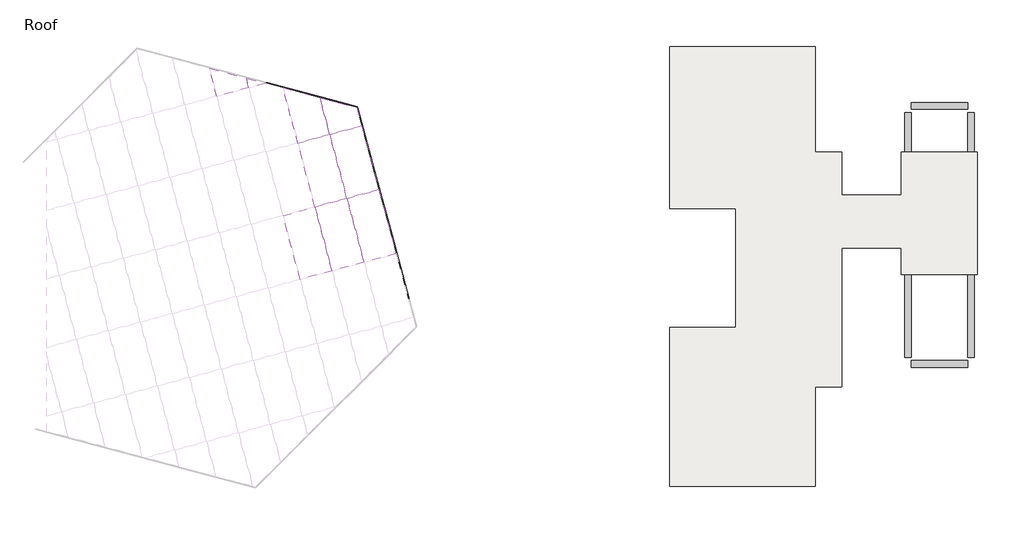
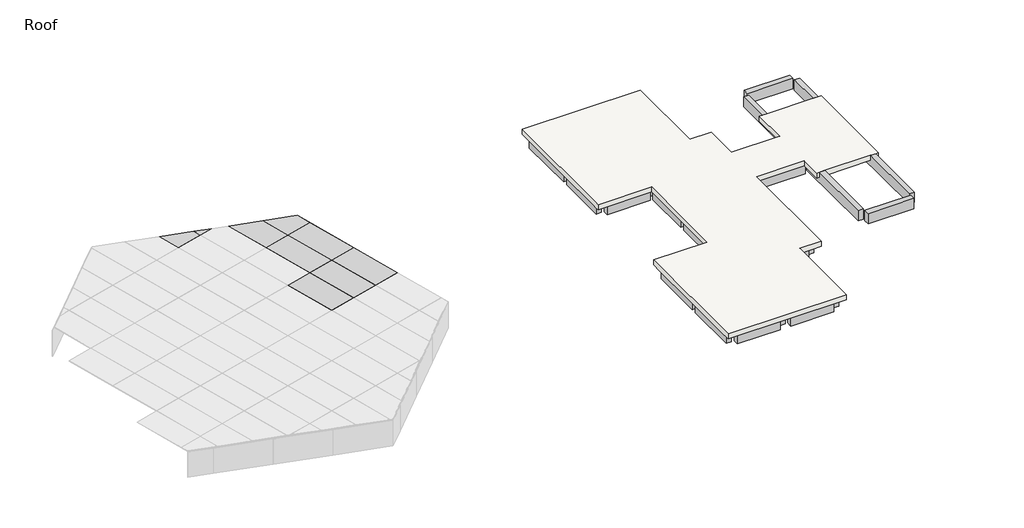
# One storey, part 2 of 2: 45 beams, 26 plates, 1 slab.
"""IFC4 building model written with IfcOpenShell, lengths in millimetres."""

from ifc_helpers import new_model, si_unit, frame, origin, place, context, project, spatial, polyline, outline, extrude, faceted_brep, transform, mapped, element, save
from components import system_panel_glazed_1e57f9bb, system_panel_glazed_41de1ca9, system_panel_glazed_1eba4097, system_panel_glazed_0a37f690, system_panel_glazed_97b34f28, system_panel_glazed_42882d86

model = new_model("IFC4")

# Units and contexts
model_context = context("Model", 3, world=origin())
ifc_project = project(units=[si_unit("LENGTHUNIT", "METRE", prefix="MILLI")], contexts=[model_context])

# Site, building, storey
site = spatial("IfcSite", under=ifc_project)
building = spatial("IfcBuilding", under=site)
storey = spatial("IfcBuildingStorey", under=building, Name="Roof", Elevation=7620.0)

# Beams
placement = place(None, origin())
element("IfcBeam", 1, ObjectType="Concrete-Rectangular Beam : 12 x 24", at=placement, inside=storey, context=model_context, shape_type="SweptSolid", body=[
    extrude(outline(polyline([(-12919.1663981, 10274.1487848), (-12919.1663981, 9969.3487848), (-15357.5663981, 9969.3487848), (-15357.5663981, 10274.1487848), (-12919.1663981, 10274.1487848)])), frame((0.0, 0.0, 6705.6), z_axis=(0.0, 0.0, 1.0), x_axis=(1.0, 0.0, 0.0)), (0.0, 0.0, 1.0), 609.6),
])
element("IfcBeam", 2, ObjectType="Concrete-Rectangular Beam : 12 x 24", at=placement, inside=storey, context=model_context, shape_type="SweptSolid", body=[
    extrude(outline(polyline([(-9871.1663981, 10274.1487848), (-9871.1663981, 9969.3487848), (-12309.5663981, 9969.3487848), (-12309.5663981, 10274.1487848), (-9871.1663981, 10274.1487848)])), frame((0.0, 0.0, 6705.6), z_axis=(0.0, 0.0, 1.0), x_axis=(1.0, 0.0, 0.0)), (0.0, 0.0, 1.0), 609.6),
])
element("IfcBeam", 3, ObjectType="Concrete-Rectangular Beam : 12 x 24", at=placement, inside=storey, context=model_context, shape_type="SweptSolid", body=[
    extrude(outline(polyline([(-15509.9663981, 6616.5487848), (-15814.7663981, 6616.5487848), (-15814.7663981, 9969.3487848), (-15509.9663981, 9969.3487848), (-15509.9663981, 6616.5487848)])), frame((0.0, 0.0, 6705.6), z_axis=(0.0, 0.0, 1.0), x_axis=(1.0, 0.0, 0.0)), (0.0, 0.0, 1.0), 609.6),
])
element("IfcBeam", 4, ObjectType="Concrete-Rectangular Beam : 12 x 24", at=placement, inside=storey, context=model_context, shape_type="SweptSolid", body=[
    extrude(outline(polyline([(-15509.9663981, 3416.1487848), (-15814.7663981, 3416.1487848), (-15814.7663981, 6311.7487848), (-15509.9663981, 6311.7487848), (-15509.9663981, 3416.1487848)])), frame((0.0, 0.0, 6705.6), z_axis=(0.0, 0.0, 1.0), x_axis=(1.0, 0.0, 0.0)), (0.0, 0.0, 1.0), 609.6),
])
element("IfcBeam", 5, ObjectType="Concrete-Rectangular Beam : 12 x 24", at=placement, inside=storey, context=model_context, shape_type="SweptSolid", body=[
    extrude(outline(polyline([(-9413.9663981, 6616.5487848), (-9718.7663981, 6616.5487848), (-9718.7663981, 9969.3487848), (-9413.9663981, 9969.3487848), (-9413.9663981, 6616.5487848)])), frame((0.0, 0.0, 6705.6), z_axis=(0.0, 0.0, 1.0), x_axis=(1.0, 0.0, 0.0)), (0.0, 0.0, 1.0), 609.6),
])
element("IfcBeam", 6, ObjectType="Concrete-Rectangular Beam : 12 x 24", at=placement, inside=storey, context=model_context, shape_type="SweptSolid", body=[
    extrude(outline(polyline([(-12461.9663981, 6616.5487848), (-12766.7663981, 6616.5487848), (-12766.7663981, 9969.3487848), (-12461.9663981, 9969.3487848), (-12461.9663981, 6616.5487848)])), frame((0.0, 0.0, 6705.6), z_axis=(0.0, 0.0, 1.0), x_axis=(1.0, 0.0, 0.0)), (0.0, 0.0, 1.0), 609.6),
])
element("IfcBeam", 7, ObjectType="Concrete-Rectangular Beam : 12 x 24", at=placement, inside=storey, context=model_context, shape_type="SweptSolid", body=[
    extrude(outline(polyline([(-12919.1663981, 6616.5487848), (-12919.1663981, 6311.7487848), (-15357.5663981, 6311.7487848), (-15357.5663981, 6616.5487848), (-12919.1663981, 6616.5487848)])), frame((0.0, 0.0, 6705.6), z_axis=(0.0, 0.0, 1.0), x_axis=(1.0, 0.0, 0.0)), (0.0, 0.0, 1.0), 609.6),
])
element("IfcBeam", 8, ObjectType="Concrete-Rectangular Beam : 12 x 24", at=placement, inside=storey, context=model_context, shape_type="SweptSolid", body=[
    extrude(outline(polyline([(-9871.1663981, 6616.5487848), (-9871.1663981, 6311.7487848), (-12309.5663981, 6311.7487848), (-12309.5663981, 6616.5487848), (-9871.1663981, 6616.5487848)])), frame((0.0, 0.0, 6705.6), z_axis=(0.0, 0.0, 1.0), x_axis=(1.0, 0.0, 0.0)), (0.0, 0.0, 1.0), 609.6),
])
element("IfcBeam", 9, ObjectType="Concrete-Rectangular Beam : 12 x 24", at=placement, inside=storey, context=model_context, shape_type="SweptSolid", body=[
    extrude(outline(polyline([(-12919.1663981, 3416.1487848), (-12919.1663981, 3111.3487848), (-15357.5663981, 3111.3487848), (-15357.5663981, 3416.1487848), (-12919.1663981, 3416.1487848)])), frame((0.0, 0.0, 6705.6), z_axis=(0.0, 0.0, 1.0), x_axis=(1.0, 0.0, 0.0)), (0.0, 0.0, 1.0), 609.6),
])
element("IfcBeam", 10, ObjectType="Concrete-Rectangular Beam : 12 x 24", at=placement, inside=storey, context=model_context, shape_type="SweptSolid", body=[
    extrude(outline(polyline([(-8651.9663981, 3416.1487848), (-8651.9663981, 3111.3487848), (-12309.5663981, 3111.3487848), (-12309.5663981, 3416.1487848), (-8651.9663981, 3416.1487848)])), frame((0.0, 0.0, 6705.6), z_axis=(0.0, 0.0, 1.0), x_axis=(1.0, 0.0, 0.0)), (0.0, 0.0, 1.0), 609.6),
])
element("IfcBeam", 11, ObjectType="Concrete-Rectangular Beam : 12 x 24", at=placement, inside=storey, context=model_context, shape_type="Brep", body=[
    faceted_brep([(-8651.9663981, 5092.5487848, 7315.2), (-8651.9663981, 5397.3487848, 7315.2), (-9413.9663981, 5397.3487848, 7315.2), (-9718.7663981, 5397.3487848, 7315.2), (-9718.7663981, 5092.5487848, 7315.2), (-8651.9663981, 5397.3487848, 6705.6), (-9413.9663981, 5397.3487848, 6705.6), (-9718.7663981, 5397.3487848, 6705.6), (-8651.9663981, 5092.5487848, 6705.6), (-9718.7663981, 5092.5487848, 6705.6)], [[[0, 1, 2, 3, 4]], [[1, 5, 6, 7, 3, 2]], [[5, 8, 9, 7, 6]], [[8, 0, 4, 9]], [[0, 8, 5, 1]], [[4, 3, 7, 9]]]),
])
element("IfcBeam", 12, ObjectType="Concrete-Rectangular Beam : 12 x 24", at=placement, inside=storey, context=model_context, shape_type="SweptSolid", body=[
    extrude(outline(polyline([(-9718.7663981, 6311.7487848), (-9413.9663981, 6311.7487848), (-9413.9663981, 5397.3487848), (-9718.7663981, 5397.3487848), (-9718.7663981, 6311.7487848)])), frame((0.0, 0.0, 6705.6), z_axis=(0.0, 0.0, 1.0), x_axis=(1.0, 0.0, 0.0)), (0.0, 0.0, 1.0), 609.6),
])
element("IfcBeam", 13, ObjectType="Concrete-Rectangular Beam : 12 x 24", at=placement, inside=storey, context=model_context, shape_type="SweptSolid", body=[
    extrude(outline(polyline([(-8194.7663981, 3416.1487848), (-8499.5663981, 3416.1487848), (-8499.5663981, 5092.5487848), (-8194.7663981, 5092.5487848), (-8194.7663981, 3416.1487848)])), frame((0.0, 0.0, 6705.6), z_axis=(0.0, 0.0, 1.0), x_axis=(1.0, 0.0, 0.0)), (0.0, 0.0, 1.0), 609.6),
])
element("IfcBeam", 14, ObjectType="Concrete-Rectangular Beam : 12 x 24", at=placement, inside=storey, context=model_context, shape_type="SweptSolid", body=[
    extrude(outline(polyline([(-12461.9663981, 3416.1487848), (-12766.7663981, 3416.1487848), (-12766.7663981, 6311.7487848), (-12461.9663981, 6311.7487848), (-12461.9663981, 3416.1487848)])), frame((0.0, 0.0, 6705.6), z_axis=(0.0, 0.0, 1.0), x_axis=(1.0, 0.0, 0.0)), (0.0, 0.0, 1.0), 609.6),
])
element("IfcBeam", 15, ObjectType="Concrete-Rectangular Beam : 12 x 24", at=placement, inside=storey, context=model_context, shape_type="SweptSolid", body=[
    extrude(outline(polyline([(-8042.3663981, 3111.3487848), (-8042.3663981, 3416.1487848), (-5146.7663981, 3416.1487848), (-5146.7663981, 3111.3487848), (-8042.3663981, 3111.3487848)])), frame((0.0, 0.0, 6705.6), z_axis=(0.0, 0.0, 1.0), x_axis=(1.0, 0.0, 0.0)), (0.0, 0.0, 1.0), 609.6),
])
element("IfcBeam", 16, ObjectType="Concrete-Rectangular Beam : 12 x 24", at=placement, inside=storey, context=model_context, shape_type="Brep", body=[
    faceted_brep([(-8499.5663981, 368.1487848, 7315.2), (-8194.7663981, 368.1487848, 7315.2), (-8194.7663981, 1282.5487848, 7315.2), (-8194.7663981, 1587.3487848, 7315.2), (-8194.7663981, 3111.3487848, 7315.2), (-8499.5663981, 3111.3487848, 7315.2), (-8499.5663981, 368.1487848, 6705.6), (-8499.5663981, 3111.3487848, 6705.6), (-8194.7663981, 368.1487848, 6705.6), (-8194.7663981, 3111.3487848, 6705.6), (-8194.7663981, 1587.3487848, 6705.6), (-8194.7663981, 1282.5487848, 6705.6)], [[[0, 1, 2, 3, 4, 5]], [[6, 0, 5, 7]], [[8, 6, 7, 9, 10, 11]], [[1, 8, 11, 10, 9, 4, 3, 2]], [[4, 9, 7, 5]], [[1, 0, 6, 8]]]),
])
element("IfcBeam", 17, ObjectType="Concrete-Rectangular Beam : 12 x 24", at=placement, inside=storey, context=model_context, shape_type="SweptSolid", body=[
    extrude(outline(polyline([(-8194.7663981, -2679.8512152), (-8499.5663981, -2679.8512152), (-8499.5663981, 63.3487848), (-8194.7663981, 63.3487848), (-8194.7663981, -2679.8512152)])), frame((0.0, 0.0, 6705.6), z_axis=(0.0, 0.0, 1.0), x_axis=(1.0, 0.0, 0.0)), (0.0, 0.0, 1.0), 609.6),
])
element("IfcBeam", 18, ObjectType="Concrete-Rectangular Beam : 12 x 24", at=placement, inside=storey, context=model_context, shape_type="SweptSolid", body=[
    extrude(outline(polyline([(-8194.7663981, -4813.4512152), (-8499.5663981, -4813.4512152), (-8499.5663981, -2984.6512152), (-8194.7663981, -2984.6512152), (-8194.7663981, -4813.4512152)])), frame((0.0, 0.0, 6705.6), z_axis=(0.0, 0.0, 1.0), x_axis=(1.0, 0.0, 0.0)), (0.0, 0.0, 1.0), 609.6),
])
element("IfcBeam", 19, ObjectType="Concrete-Rectangular Beam : 12 x 24", at=placement, inside=storey, context=model_context, shape_type="SweptSolid", body=[
    extrude(outline(polyline([(-8194.7663981, 1282.5487848), (-8194.7663981, 1587.3487848), (-5146.7663981, 1587.3487848), (-5146.7663981, 1282.5487848), (-8194.7663981, 1282.5487848)])), frame((0.0, 0.0, 6705.6), z_axis=(0.0, 0.0, 1.0), x_axis=(1.0, 0.0, 0.0)), (0.0, 0.0, 1.0), 609.6),
])
element("IfcBeam", 20, ObjectType="Concrete-Rectangular Beam : 12 x 24", at=placement, inside=storey, context=model_context, shape_type="SweptSolid", body=[
    extrude(outline(polyline([(-12461.9663981, 368.1487848), (-12766.7663981, 368.1487848), (-12766.7663981, 3111.3487848), (-12461.9663981, 3111.3487848), (-12461.9663981, 368.1487848)])), frame((0.0, 0.0, 6705.6), z_axis=(0.0, 0.0, 1.0), x_axis=(1.0, 0.0, 0.0)), (0.0, 0.0, 1.0), 609.6),
])
element("IfcBeam", 21, ObjectType="Concrete-Rectangular Beam : 12 x 24", at=placement, inside=storey, context=model_context, shape_type="SweptSolid", body=[
    extrude(outline(polyline([(-12461.9663981, -2679.8512152), (-12766.7663981, -2679.8512152), (-12766.7663981, 63.3487848), (-12461.9663981, 63.3487848), (-12461.9663981, -2679.8512152)])), frame((0.0, 0.0, 6705.6), z_axis=(0.0, 0.0, 1.0), x_axis=(1.0, 0.0, 0.0)), (0.0, 0.0, 1.0), 609.6),
])
element("IfcBeam", 22, ObjectType="Concrete-Rectangular Beam : 12 x 24", at=placement, inside=storey, context=model_context, shape_type="SweptSolid", body=[
    extrude(outline(polyline([(-12919.1663981, -2679.8512152), (-12919.1663981, -2984.6512152), (-15357.5663981, -2984.6512152), (-15357.5663981, -2679.8512152), (-12919.1663981, -2679.8512152)])), frame((0.0, 0.0, 6705.6), z_axis=(0.0, 0.0, 1.0), x_axis=(1.0, 0.0, 0.0)), (0.0, 0.0, 1.0), 609.6),
])
element("IfcBeam", 23, ObjectType="Concrete-Rectangular Beam : 12 x 24", at=placement, inside=storey, context=model_context, shape_type="SweptSolid", body=[
    extrude(outline(polyline([(-8651.9663981, -2679.8512152), (-8651.9663981, -2984.6512152), (-12309.5663981, -2984.6512152), (-12309.5663981, -2679.8512152), (-8651.9663981, -2679.8512152)])), frame((0.0, 0.0, 6705.6), z_axis=(0.0, 0.0, 1.0), x_axis=(1.0, 0.0, 0.0)), (0.0, 0.0, 1.0), 609.6),
])
element("IfcBeam", 24, ObjectType="Concrete-Rectangular Beam : 12 x 24", at=placement, inside=storey, context=model_context, shape_type="SweptSolid", body=[
    extrude(outline(polyline([(-8651.9663981, 368.1487848), (-8651.9663981, 63.3487848), (-12309.5663981, 63.3487848), (-12309.5663981, 368.1487848), (-8651.9663981, 368.1487848)])), frame((0.0, 0.0, 6705.6), z_axis=(0.0, 0.0, 1.0), x_axis=(1.0, 0.0, 0.0)), (0.0, 0.0, 1.0), 609.6),
])
element("IfcBeam", 25, ObjectType="Concrete-Rectangular Beam : 12 x 24", at=placement, inside=storey, context=model_context, shape_type="SweptSolid", body=[
    extrude(outline(polyline([(-15509.9663981, -6032.6512152), (-15814.7663981, -6032.6512152), (-15814.7663981, -2984.6512152), (-15509.9663981, -2984.6512152), (-15509.9663981, -6032.6512152)])), frame((0.0, 0.0, 6705.6), z_axis=(0.0, 0.0, 1.0), x_axis=(1.0, 0.0, 0.0)), (0.0, 0.0, 1.0), 609.6),
])
element("IfcBeam", 26, ObjectType="Concrete-Rectangular Beam : 12 x 24", at=placement, inside=storey, context=model_context, shape_type="SweptSolid", body=[
    extrude(outline(polyline([(-12919.1663981, -6032.6512152), (-12919.1663981, -6337.4512152), (-15357.5663981, -6337.4512152), (-15357.5663981, -6032.6512152), (-12919.1663981, -6032.6512152)])), frame((0.0, 0.0, 6705.6), z_axis=(0.0, 0.0, 1.0), x_axis=(1.0, 0.0, 0.0)), (0.0, 0.0, 1.0), 609.6),
])
element("IfcBeam", 27, ObjectType="Concrete-Rectangular Beam : 12 x 24", at=placement, inside=storey, context=model_context, shape_type="SweptSolid", body=[
    extrude(outline(polyline([(-9871.1663981, -6032.6512152), (-9871.1663981, -6337.4512152), (-12309.5663981, -6337.4512152), (-12309.5663981, -6032.6512152), (-9871.1663981, -6032.6512152)])), frame((0.0, 0.0, 6705.6), z_axis=(0.0, 0.0, 1.0), x_axis=(1.0, 0.0, 0.0)), (0.0, 0.0, 1.0), 609.6),
])
element("IfcBeam", 28, ObjectType="Concrete-Rectangular Beam : 12 x 24", at=placement, inside=storey, context=model_context, shape_type="SweptSolid", body=[
    extrude(outline(polyline([(-12461.9663981, -6032.6512152), (-12766.7663981, -6032.6512152), (-12766.7663981, -2984.6512152), (-12461.9663981, -2984.6512152), (-12461.9663981, -6032.6512152)])), frame((0.0, 0.0, 6705.6), z_axis=(0.0, 0.0, 1.0), x_axis=(1.0, 0.0, 0.0)), (0.0, 0.0, 1.0), 609.6),
])
element("IfcBeam", 29, ObjectType="Concrete-Rectangular Beam : 12 x 24", at=placement, inside=storey, context=model_context, shape_type="SweptSolid", body=[
    extrude(outline(polyline([(-15509.9663981, -9385.4512152), (-15814.7663981, -9385.4512152), (-15814.7663981, -6337.4512152), (-15509.9663981, -6337.4512152), (-15509.9663981, -9385.4512152)])), frame((0.0, 0.0, 6705.6), z_axis=(0.0, 0.0, 1.0), x_axis=(1.0, 0.0, 0.0)), (0.0, 0.0, 1.0), 609.6),
])
element("IfcBeam", 30, ObjectType="Concrete-Rectangular Beam : 12 x 24", at=placement, inside=storey, context=model_context, shape_type="SweptSolid", body=[
    extrude(outline(polyline([(-12919.1663981, -9385.4512152), (-12919.1663981, -9690.2512152), (-15357.5663981, -9690.2512152), (-15357.5663981, -9385.4512152), (-12919.1663981, -9385.4512152)])), frame((0.0, 0.0, 6705.6), z_axis=(0.0, 0.0, 1.0), x_axis=(1.0, 0.0, 0.0)), (0.0, 0.0, 1.0), 609.6),
])
element("IfcBeam", 31, ObjectType="Concrete-Rectangular Beam : 12 x 24", at=placement, inside=storey, context=model_context, shape_type="SweptSolid", body=[
    extrude(outline(polyline([(-9871.1663981, -9385.4512152), (-9871.1663981, -9690.2512152), (-12309.5663981, -9690.2512152), (-12309.5663981, -9385.4512152), (-9871.1663981, -9385.4512152)])), frame((0.0, 0.0, 6705.6), z_axis=(0.0, 0.0, 1.0), x_axis=(1.0, 0.0, 0.0)), (0.0, 0.0, 1.0), 609.6),
])
element("IfcBeam", 32, ObjectType="Concrete-Rectangular Beam : 12 x 24", at=placement, inside=storey, context=model_context, shape_type="SweptSolid", body=[
    extrude(outline(polyline([(-12461.9663981, -9385.4512152), (-12766.7663981, -9385.4512152), (-12766.7663981, -6337.4512152), (-12461.9663981, -6337.4512152), (-12461.9663981, -9385.4512152)])), frame((0.0, 0.0, 6705.6), z_axis=(0.0, 0.0, 1.0), x_axis=(1.0, 0.0, 0.0)), (0.0, 0.0, 1.0), 609.6),
])
element("IfcBeam", 33, ObjectType="Concrete-Rectangular Beam : 12 x 24", at=placement, inside=storey, context=model_context, shape_type="SweptSolid", body=[
    extrude(outline(polyline([(-9413.9663981, -9385.4512152), (-9718.7663981, -9385.4512152), (-9718.7663981, -6337.4512152), (-9413.9663981, -6337.4512152), (-9413.9663981, -9385.4512152)])), frame((0.0, 0.0, 6705.6), z_axis=(0.0, 0.0, 1.0), x_axis=(1.0, 0.0, 0.0)), (0.0, 0.0, 1.0), 609.6),
])
element("IfcBeam", 34, ObjectType="Concrete-Rectangular Beam : 12 x 24", at=placement, inside=storey, context=model_context, shape_type="Brep", body=[
    faceted_brep([(-9718.7663981, -6032.6512152, 7315.2), (-9413.9663981, -6032.6512152, 7315.2), (-9413.9663981, -5118.2512152, 7315.2), (-9413.9663981, -4813.4512152, 7315.2), (-9718.7663981, -4813.4512152, 7315.2), (-9413.9663981, -6032.6512152, 6705.6), (-9413.9663981, -5118.2512152, 6705.6), (-9413.9663981, -4813.4512152, 6705.6), (-9718.7663981, -6032.6512152, 6705.6), (-9718.7663981, -4813.4512152, 6705.6)], [[[0, 1, 2, 3, 4]], [[1, 5, 6, 7, 3, 2]], [[5, 8, 9, 7, 6]], [[8, 0, 4, 9]], [[0, 8, 5, 1]], [[4, 3, 7, 9]]]),
])
element("IfcBeam", 35, ObjectType="Concrete-Rectangular Beam : 12 x 24", at=placement, inside=storey, context=model_context, shape_type="SweptSolid", body=[
    extrude(outline(polyline([(-8651.9663981, -4813.4512152), (-8651.9663981, -5118.2512152), (-9413.9663981, -5118.2512152), (-9413.9663981, -4813.4512152), (-8651.9663981, -4813.4512152)])), frame((0.0, 0.0, 6705.6), z_axis=(0.0, 0.0, 1.0), x_axis=(1.0, 0.0, 0.0)), (0.0, 0.0, 1.0), 609.6),
])
element("IfcBeam", 36, ObjectType="Concrete-Rectangular Beam : 12 x 24", at=placement, inside=storey, context=model_context, shape_type="SweptSolid", body=[
    extrude(outline(polyline([(-4841.9663981, 3111.3487848), (-4841.9663981, 3416.1487848), (-2251.1663981, 3416.1487848), (-2251.1663981, 3111.3487848), (-4841.9663981, 3111.3487848)])), frame((0.0, 0.0, 6705.6), z_axis=(0.0, 0.0, 1.0), x_axis=(1.0, 0.0, 0.0)), (0.0, 0.0, 1.0), 609.6),
])
element("IfcBeam", 37, ObjectType="Concrete-Rectangular Beam : 12 x 24", at=placement, inside=storey, context=model_context, shape_type="SweptSolid", body=[
    extrude(outline(polyline([(-4841.9663981, 1282.5487848), (-4841.9663981, 1587.3487848), (-2251.1663981, 1587.3487848), (-2251.1663981, 1282.5487848), (-4841.9663981, 1282.5487848)])), frame((0.0, 0.0, 6705.6), z_axis=(0.0, 0.0, 1.0), x_axis=(1.0, 0.0, 0.0)), (0.0, 0.0, 1.0), 609.6),
])
element("IfcBeam", 38, ObjectType="Concrete-Rectangular Beam : 12 x 24", at=placement, inside=storey, context=model_context, shape_type="SweptSolid", body=[
    extrude(outline(polyline([(1130.1487848, 7010.4), (-3899.0512152, 7010.4), (-3899.0512152, 7620.0), (-89.0512152, 7620.0), (-89.0512152, 7315.2), (1130.1487848, 7315.2), (1130.1487848, 7010.4)])), frame((-5146.7663981, 0.0, 0.0), z_axis=(1.0, 0.0, 0.0), x_axis=(0.0, 1.0, 0.0)), (0.0, 0.0, 1.0), 304.8),
])
element("IfcBeam", 39, ObjectType="Concrete-Rectangular Beam : 12 x 24", at=placement, inside=storey, context=model_context, shape_type="SweptSolid", body=[
    extrude(outline(polyline([(-4841.9663981, 2958.9487848), (-4841.9663981, 1739.7487848), (-5146.7663981, 1739.7487848), (-5146.7663981, 2958.9487848), (-4841.9663981, 2958.9487848)])), frame((0.0, 0.0, 7010.4), z_axis=(0.0, 0.0, 1.0), x_axis=(1.0, 0.0, 0.0)), (0.0, 0.0, 1.0), 304.8),
])
element("IfcBeam", 40, ObjectType="Concrete-Rectangular Beam : 12 x 24", at=placement, inside=storey, context=model_context, shape_type="SweptSolid", body=[
    extrude(outline(polyline([(7378.5487848, 7010.4), (3568.5487848, 7010.4), (3568.5487848, 7315.2), (5549.7487848, 7315.2), (5549.7487848, 7620.0), (7378.5487848, 7620.0), (7378.5487848, 7010.4)])), frame((-5146.7663981, 0.0, 0.0), z_axis=(1.0, 0.0, 0.0), x_axis=(0.0, 1.0, 0.0)), (0.0, 0.0, 1.0), 304.8),
])
element("IfcBeam", 41, ObjectType="Concrete-Rectangular Beam : 12 x 24", at=placement, inside=storey, context=model_context, shape_type="SweptSolid", body=[
    extrude(outline(polyline([(-2251.1663981, 7835.7487848), (-2251.1663981, 7530.9487848), (-4841.9663981, 7530.9487848), (-4841.9663981, 7835.7487848), (-2251.1663981, 7835.7487848)])), frame((0.0, 0.0, 7010.4), z_axis=(0.0, 0.0, 1.0), x_axis=(1.0, 0.0, 0.0)), (0.0, 0.0, 1.0), 609.6),
])
element("IfcBeam", 42, ObjectType="Concrete-Rectangular Beam : 12 x 24", at=placement, inside=storey, context=model_context, shape_type="SweptSolid", body=[
    extrude(outline(polyline([(7378.5487848, 7010.4), (3568.5487848, 7010.4), (3568.5487848, 7315.2), (5549.7487848, 7315.2), (5549.7487848, 7620.0), (7378.5487848, 7620.0), (7378.5487848, 7010.4)])), frame((-2251.1663981, 0.0, 0.0), z_axis=(1.0, 0.0, 0.0), x_axis=(0.0, 1.0, 0.0)), (0.0, 0.0, 1.0), 304.8),
])
element("IfcBeam", 43, ObjectType="Concrete-Rectangular Beam : 12 x 24", at=placement, inside=storey, context=model_context, shape_type="SweptSolid", body=[
    extrude(outline(polyline([(-2251.1663981, 1739.7487848), (-2251.1663981, 2958.9487848), (-1946.3663981, 2958.9487848), (-1946.3663981, 1739.7487848), (-2251.1663981, 1739.7487848)])), frame((0.0, 0.0, 7010.4), z_axis=(0.0, 0.0, 1.0), x_axis=(1.0, 0.0, 0.0)), (0.0, 0.0, 1.0), 304.8),
])
element("IfcBeam", 44, ObjectType="Concrete-Rectangular Beam : 12 x 24", at=placement, inside=storey, context=model_context, shape_type="SweptSolid", body=[
    extrude(outline(polyline([(1130.1487848, 7010.4), (-3899.0512152, 7010.4), (-3899.0512152, 7620.0), (-89.0512152, 7620.0), (-89.0512152, 7315.2), (1130.1487848, 7315.2), (1130.1487848, 7010.4)])), frame((-2251.1663981, 0.0, 0.0), z_axis=(1.0, 0.0, 0.0), x_axis=(0.0, 1.0, 0.0)), (0.0, 0.0, 1.0), 304.8),
])
element("IfcBeam", 45, ObjectType="Concrete-Rectangular Beam : 12 x 24", at=placement, inside=storey, context=model_context, shape_type="SweptSolid", body=[
    extrude(outline(polyline([(-2251.1663981, -4051.4512152), (-2251.1663981, -4356.2512152), (-4841.9663981, -4356.2512152), (-4841.9663981, -4051.4512152), (-2251.1663981, -4051.4512152)])), frame((0.0, 0.0, 7010.4), z_axis=(0.0, 0.0, 1.0), x_axis=(1.0, 0.0, 0.0)), (0.0, 0.0, 1.0), 609.6),
])

# Plates
system_panel_glazed_shape = system_panel_glazed_1e57f9bb(model_context)
element("IfcPlate", 46, ObjectType="System Panel : Glazed", at=placement, inside=storey, context=model_context, shape_type="MappedRepresentation", body=[
    mapped(system_panel_glazed_shape, transform((-33105.3079985, 8339.8512641, 7620.0), x_axis=(0.9659258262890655, -0.25881904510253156, 0.0), y_axis=(0.25881904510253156, 0.9659258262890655, 0.0), z_axis=(0.0, 0.0, 1.0))),
])
element("IfcPlate", 47, ObjectType="System Panel : Glazed", at=placement, inside=storey, context=model_context, shape_type="MappedRepresentation", body=[
    mapped(system_panel_glazed_shape, transform((-29974.9189673, 6134.6850315, 7620.0), x_axis=(0.25881904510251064, -0.965925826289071, 0.0), y_axis=(0.965925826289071, 0.25881904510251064, 0.0), z_axis=(0.0, 0.0, 1.0))),
])
element("IfcPlate", 48, ObjectType="System Panel : Glazed", at=placement, inside=storey, context=model_context, shape_type="MappedRepresentation", body=[
    mapped(system_panel_glazed_shape, transform((-29186.0385178, 3190.5431128, 7620.0), x_axis=(0.25881904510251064, -0.965925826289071, 0.0), y_axis=(0.965925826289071, 0.25881904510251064, 0.0), z_axis=(0.0, 0.0, 1.0))),
])
element("IfcPlate", 49, ObjectType="System Panel : Glazed", at=placement, inside=storey, context=model_context, shape_type="MappedRepresentation", body=[
    mapped(system_panel_glazed_shape, transform((-28397.1580683, 246.4011943, 7620.0), x_axis=(0.25881904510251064, -0.965925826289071, 0.0), y_axis=(0.965925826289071, 0.25881904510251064, 0.0), z_axis=(0.0, 0.0, 1.0))),
])
element("IfcPlate", 50, ObjectType="System Panel : Glazed", at=placement, inside=storey, context=model_context, shape_type="MappedRepresentation", body=[
    mapped(system_panel_glazed_shape, transform((-29974.9189673, 6134.6850315, 7620.0), x_axis=(0.25881904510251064, -0.965925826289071, 0.0), y_axis=(0.965925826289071, 0.25881904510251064, 0.0), z_axis=(0.0, 0.0, 1.0))),
])
element("IfcPlate", 51, ObjectType="System Panel : Glazed", at=placement, inside=storey, context=model_context, shape_type="MappedRepresentation", body=[
    mapped(system_panel_glazed_shape, transform((-29186.0385178, 3190.5431128, 7620.0), x_axis=(0.25881904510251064, -0.965925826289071, 0.0), y_axis=(0.965925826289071, 0.25881904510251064, 0.0), z_axis=(0.0, 0.0, 1.0))),
])
element("IfcPlate", 52, ObjectType="System Panel : Glazed", at=placement, inside=storey, context=model_context, shape_type="MappedRepresentation", body=[
    mapped(system_panel_glazed_shape, transform((-28397.1580683, 246.4011943, 7620.0), x_axis=(0.25881904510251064, -0.965925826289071, 0.0), y_axis=(0.965925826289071, 0.25881904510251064, 0.0), z_axis=(0.0, 0.0, 1.0))),
])
element("IfcPlate", 53, ObjectType="System Panel : Glazed", at=placement, inside=storey, context=model_context, shape_type="MappedRepresentation", body=[
    mapped(system_panel_glazed_shape, transform((-29749.8062668, 5294.5529958, 9144.0), x_axis=(0.25881904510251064, -0.965925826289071, 0.0), y_axis=(0.0, 0.0, 1.0), z_axis=(-0.965925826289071, -0.25881904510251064, 0.0))),
])
element("IfcPlate", 54, ObjectType="System Panel : Glazed", at=placement, inside=storey, context=model_context, shape_type="MappedRepresentation", body=[
    mapped(system_panel_glazed_shape, transform((-28960.9258173, 2350.4110773, 9144.0), x_axis=(0.25881904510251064, -0.965925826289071, 0.0), y_axis=(0.0, 0.0, 1.0), z_axis=(-0.965925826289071, -0.25881904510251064, 0.0))),
])
element("IfcPlate", 55, ObjectType="System Panel : Glazed", at=placement, inside=storey, context=model_context, shape_type="MappedRepresentation", body=[
    mapped(system_panel_glazed_shape, transform((-31221.8772261, 4900.112771, 9144.0), x_axis=(0.25881904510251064, -0.965925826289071, 0.0), y_axis=(0.0, 0.0, 1.0), z_axis=(-0.965925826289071, -0.25881904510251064, 0.0))),
])
element("IfcPlate", 56, ObjectType="System Panel : Glazed", at=placement, inside=storey, context=model_context, shape_type="MappedRepresentation", body=[
    mapped(system_panel_glazed_shape, transform((-30432.9967766, 1955.9708525, 9144.0), x_axis=(0.25881904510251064, -0.965925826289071, 0.0), y_axis=(0.0, 0.0, 1.0), z_axis=(-0.965925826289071, -0.25881904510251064, 0.0))),
])
element("IfcPlate", 57, ObjectType="System Panel : Glazed", at=placement, inside=storey, context=model_context, shape_type="MappedRepresentation", body=[
    mapped(system_panel_glazed_shape, transform((-31905.0677359, 1561.5306278, 9144.0), x_axis=(0.25881904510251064, -0.965925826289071, 0.0), y_axis=(0.0, 0.0, 1.0), z_axis=(-0.965925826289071, -0.25881904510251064, 0.0))),
])
element("IfcPlate", 58, ObjectType="System Panel : Glazed", at=placement, inside=storey, context=model_context, shape_type="MappedRepresentation", body=[
    mapped(system_panel_glazed_shape, transform((-36049.449917, 9128.7317136, 7620.0), x_axis=(0.9659258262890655, -0.25881904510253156, 0.0), y_axis=(0.25881904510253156, 0.9659258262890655, 0.0), z_axis=(0.0, 0.0, 1.0))),
])
element("IfcPlate", 59, ObjectType="System Panel : Glazed", at=placement, inside=storey, context=model_context, shape_type="MappedRepresentation", body=[
    mapped(system_panel_glazed_shape, transform((-33105.3079985, 8339.8512641, 7620.0), x_axis=(0.9659258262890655, -0.25881904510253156, 0.0), y_axis=(0.25881904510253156, 0.9659258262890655, 0.0), z_axis=(0.0, 0.0, 1.0))),
])
element("IfcPlate", 60, ObjectType="System Panel : Glazed", at=placement, inside=storey, context=model_context, shape_type="MappedRepresentation", body=[
    mapped(system_panel_glazed_shape, transform((-36049.449917, 9128.7317136, 7620.0), x_axis=(0.9659258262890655, -0.25881904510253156, 0.0), y_axis=(0.25881904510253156, 0.9659258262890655, 0.0), z_axis=(0.0, 0.0, 1.0))),
])
element("IfcPlate", 61, ObjectType="System Panel : Glazed", at=placement, inside=storey, context=model_context, shape_type="MappedRepresentation", body=[
    mapped(system_panel_glazed_shape, transform((-33105.3079985, 8339.8512641, 7620.0), x_axis=(0.9659258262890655, -0.25881904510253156, 0.0), y_axis=(0.25881904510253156, 0.9659258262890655, 0.0), z_axis=(0.0, 0.0, 1.0))),
])
element("IfcPlate", 62, ObjectType="System Panel : Glazed", at=placement, inside=storey, context=model_context, shape_type="MappedRepresentation", body=[
    mapped(system_panel_glazed_shape, transform((-29974.9189673, 6134.6850315, 7620.0), x_axis=(0.25881904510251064, -0.965925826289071, 0.0), y_axis=(0.965925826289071, 0.25881904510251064, 0.0), z_axis=(0.0, 0.0, 1.0))),
])
element("IfcPlate", 63, ObjectType="System Panel : Glazed", at=placement, inside=storey, context=model_context, shape_type="MappedRepresentation", body=[
    mapped(system_panel_glazed_shape, transform((-29186.0385178, 3190.5431128, 7620.0), x_axis=(0.25881904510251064, -0.965925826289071, 0.0), y_axis=(0.965925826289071, 0.25881904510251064, 0.0), z_axis=(0.0, 0.0, 1.0))),
])
element("IfcPlate", 64, ObjectType="System Panel : Glazed", at=placement, inside=storey, context=model_context, shape_type="MappedRepresentation", body=[
    mapped(system_panel_glazed_shape, transform((-28397.1580683, 246.4011943, 7620.0), x_axis=(0.25881904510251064, -0.965925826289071, 0.0), y_axis=(0.965925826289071, 0.25881904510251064, 0.0), z_axis=(0.0, 0.0, 1.0))),
])
system_panel_glazed_2_shape = system_panel_glazed_41de1ca9(model_context)
element("IfcPlate", 65, ObjectType="System Panel : Glazed", at=placement, inside=storey, context=model_context, shape_type="MappedRepresentation", body=[
    mapped(system_panel_glazed_2_shape, transform((-31001.2981157, 7776.0835151, 7620.0), x_axis=(0.9659258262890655, -0.25881904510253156, 0.0), y_axis=(0.25881904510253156, 0.9659258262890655, 0.0), z_axis=(0.0, 0.0, 1.0))),
])
element("IfcPlate", 66, ObjectType="System Panel : Glazed", at=placement, inside=storey, context=model_context, shape_type="MappedRepresentation", body=[
    mapped(system_panel_glazed_2_shape, transform((-31001.2981157, 7776.0835151, 7620.0), x_axis=(0.9659258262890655, -0.25881904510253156, 0.0), y_axis=(0.25881904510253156, 0.9659258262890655, 0.0), z_axis=(0.0, 0.0, 1.0))),
])
element("IfcPlate", 67, ObjectType="System Panel : Glazed", at=placement, inside=storey, context=model_context, shape_type="MappedRepresentation", body=[
    mapped(system_panel_glazed_2_shape, transform((-31001.2981157, 7776.0835151, 7620.0), x_axis=(0.9659258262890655, -0.25881904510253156, 0.0), y_axis=(0.25881904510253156, 0.9659258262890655, 0.0), z_axis=(0.0, 0.0, 1.0))),
])
system_panel_glazed_3_shape = system_panel_glazed_1eba4097(model_context)
element("IfcPlate", 68, ObjectType="System Panel : Glazed", at=placement, inside=storey, context=model_context, shape_type="MappedRepresentation", body=[
    mapped(system_panel_glazed_3_shape, transform((-30370.6679268, 7611.6402553, 9144.0), x_axis=(0.25881904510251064, -0.965925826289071, 0.0), y_axis=(0.0, 0.0, 1.0), z_axis=(-0.965925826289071, -0.25881904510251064, 0.0))),
])
system_panel_glazed_4_shape = system_panel_glazed_0a37f690(model_context)
element("IfcPlate", 69, ObjectType="System Panel : Glazed", at=placement, inside=storey, context=model_context, shape_type="MappedRepresentation", body=[
    mapped(system_panel_glazed_4_shape, transform((-31956.603971, 7642.1503128, 9144.0), x_axis=(0.25881904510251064, -0.965925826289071, 0.0), y_axis=(0.0, 0.0, 1.0), z_axis=(-0.965925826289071, -0.25881904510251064, 0.0))),
])
system_panel_glazed_5_shape = system_panel_glazed_97b34f28(model_context)
element("IfcPlate", 70, ObjectType="System Panel : Glazed", at=placement, inside=storey, context=model_context, shape_type="MappedRepresentation", body=[
    mapped(system_panel_glazed_5_shape, transform((-34637.0903379, 8957.1373943, 9144.0), x_axis=(0.25881904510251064, -0.965925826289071, 0.0), y_axis=(0.0, 0.0, 1.0), z_axis=(-0.965925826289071, -0.25881904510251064, 0.0))),
])
system_panel_glazed_6_shape = system_panel_glazed_42882d86(model_context)
element("IfcPlate", 71, ObjectType="System Panel : Glazed", at=placement, inside=storey, context=model_context, shape_type="MappedRepresentation", body=[
    mapped(system_panel_glazed_6_shape, transform((-35522.9162842, 9175.2413872, 9144.0), x_axis=(0.25881904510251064, -0.965925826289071, 0.0), y_axis=(0.0, 0.0, 1.0), z_axis=(-0.965925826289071, -0.25881904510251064, 0.0))),
])

# Slab
element("IfcSlab", 72, ObjectType="Generic - 12\"", at=placement, inside=storey, context=model_context, shape_type="Brep", body=[
    faceted_brep([(-9261.5663981, 10426.5487848, 7315.2), (-9261.5663981, 10274.1487848, 7315.2), (-9261.5663981, 9969.3487848, 7315.2), (-9261.5663981, 6616.5487848, 7315.2), (-9261.5663981, 6311.7487848, 7315.2), (-9261.5663981, 5549.7487848, 7315.2), (-8042.3663981, 5549.7487848, 7315.2), (-8042.3663981, 5397.3487848, 7315.2), (-8042.3663981, 5092.5487848, 7315.2), (-8042.3663981, 3568.5487848, 7315.2), (-5299.1663981, 3568.5487848, 7315.2), (-5299.1663981, 5549.7487848, 7315.2), (-5146.7663981, 5549.7487848, 7315.2), (-4841.9663981, 5549.7487848, 7315.2), (-2251.1663981, 5549.7487848, 7315.2), (-1946.3663981, 5549.7487848, 7315.2), (-1793.9663981, 5549.7487848, 7315.2), (-1793.9663981, -89.0512152, 7315.2), (-1946.3663981, -89.0512152, 7315.2), (-2251.1663981, -89.0512152, 7315.2), (-4841.9663981, -89.0512152, 7315.2), (-5146.7663981, -89.0512152, 7315.2), (-5299.1663981, -89.0512152, 7315.2), (-5299.1663981, 1130.1487848, 7315.2), (-8042.3663981, 1130.1487848, 7315.2), (-8042.3663981, 368.1487848, 7315.2), (-8042.3663981, 63.3487848, 7315.2), (-8042.3663981, -2679.8512152, 7315.2), (-8042.3663981, -2984.6512152, 7315.2), (-8042.3663981, -4813.4512152, 7315.2), (-8042.3663981, -5118.2512152, 7315.2), (-8042.3663981, -5270.6512152, 7315.2), (-9261.5663981, -5270.6512152, 7315.2), (-9261.5663981, -6032.6512152, 7315.2), (-9261.5663981, -6337.4512152, 7315.2), (-9261.5663981, -9385.4512152, 7315.2), (-9261.5663981, -9690.2512152, 7315.2), (-9261.5663981, -9842.6512152, 7315.2), (-15967.1663981, -9842.6512152, 7315.2), (-15967.1663981, -9690.2512152, 7315.2), (-15967.1663981, -9385.4512152, 7315.2), (-15967.1663981, -6337.4512152, 7315.2), (-15967.1663981, -6032.6512152, 7315.2), (-15967.1663981, -2984.6512152, 7315.2), (-15967.1663981, -2679.8512152, 7315.2), (-15967.1663981, -2527.4512152, 7315.2), (-12919.1663981, -2527.4512152, 7315.2), (-12919.1663981, 63.3487848, 7315.2), (-12919.1663981, 368.1487848, 7315.2), (-12919.1663981, 2958.9487848, 7315.2), (-15967.1663981, 2958.9487848, 7315.2), (-15967.1663981, 3111.3487848, 7315.2), (-15967.1663981, 3416.1487848, 7315.2), (-15967.1663981, 6311.7487848, 7315.2), (-15967.1663981, 6616.5487848, 7315.2), (-15967.1663981, 9969.3487848, 7315.2), (-15967.1663981, 10274.1487848, 7315.2), (-15967.1663981, 10426.5487848, 7315.2), (-9261.5663981, 10426.5487848, 7620.0), (-15967.1663981, 10426.5487848, 7620.0), (-15967.1663981, 2958.9487848, 7620.0), (-12919.1663981, 2958.9487848, 7620.0), (-12919.1663981, -2527.4512152, 7620.0), (-15967.1663981, -2527.4512152, 7620.0), (-15967.1663981, -9842.6512152, 7620.0), (-9261.5663981, -9842.6512152, 7620.0), (-9261.5663981, -5270.6512152, 7620.0), (-8042.3663981, -5270.6512152, 7620.0), (-8042.3663981, 1130.1487848, 7620.0), (-5299.1663981, 1130.1487848, 7620.0), (-5299.1663981, -89.0512152, 7620.0), (-5146.7663981, -89.0512152, 7620.0), (-4841.9663981, -89.0512152, 7620.0), (-2251.1663981, -89.0512152, 7620.0), (-1946.3663981, -89.0512152, 7620.0), (-1793.9663981, -89.0512152, 7620.0), (-1793.9663981, 5549.7487848, 7620.0), (-1946.3663981, 5549.7487848, 7620.0), (-2251.1663981, 5549.7487848, 7620.0), (-4841.9663981, 5549.7487848, 7620.0), (-5146.7663981, 5549.7487848, 7620.0), (-5299.1663981, 5549.7487848, 7620.0), (-5299.1663981, 3568.5487848, 7620.0), (-8042.3663981, 3568.5487848, 7620.0), (-8042.3663981, 5549.7487848, 7620.0), (-9261.5663981, 5549.7487848, 7620.0)], [[[0, 1, 2, 3, 4, 5, 6, 7, 8, 9, 10, 11, 12, 13, 14, 15, 16, 17, 18, 19, 20, 21, 22, 23, 24, 25, 26, 27, 28, 29, 30, 31, 32, 33, 34, 35, 36, 37, 38, 39, 40, 41, 42, 43, 44, 45, 46, 47, 48, 49, 50, 51, 52, 53, 54, 55, 56, 57]], [[58, 59, 60, 61, 62, 63, 64, 65, 66, 67, 68, 69, 70, 71, 72, 73, 74, 75, 76, 77, 78, 79, 80, 81, 82, 83, 84, 85]], [[5, 4, 3, 2, 1, 0, 58, 85]], [[6, 5, 85, 84]], [[9, 8, 7, 6, 84, 83]], [[10, 9, 83, 82]], [[11, 10, 82, 81]], [[16, 15, 14, 13, 12, 11, 81, 80, 79, 78, 77, 76]], [[17, 16, 76, 75]], [[22, 21, 20, 19, 18, 17, 75, 74, 73, 72, 71, 70]], [[23, 22, 70, 69]], [[24, 23, 69, 68]], [[31, 30, 29, 28, 27, 26, 25, 24, 68, 67]], [[32, 31, 67, 66]], [[37, 36, 35, 34, 33, 32, 66, 65]], [[38, 37, 65, 64]], [[45, 44, 43, 42, 41, 40, 39, 38, 64, 63]], [[46, 45, 63, 62]], [[49, 48, 47, 46, 62, 61]], [[50, 49, 61, 60]], [[57, 56, 55, 54, 53, 52, 51, 50, 60, 59]], [[0, 57, 59, 58]]]),
])

save(model, "model.ifc")
